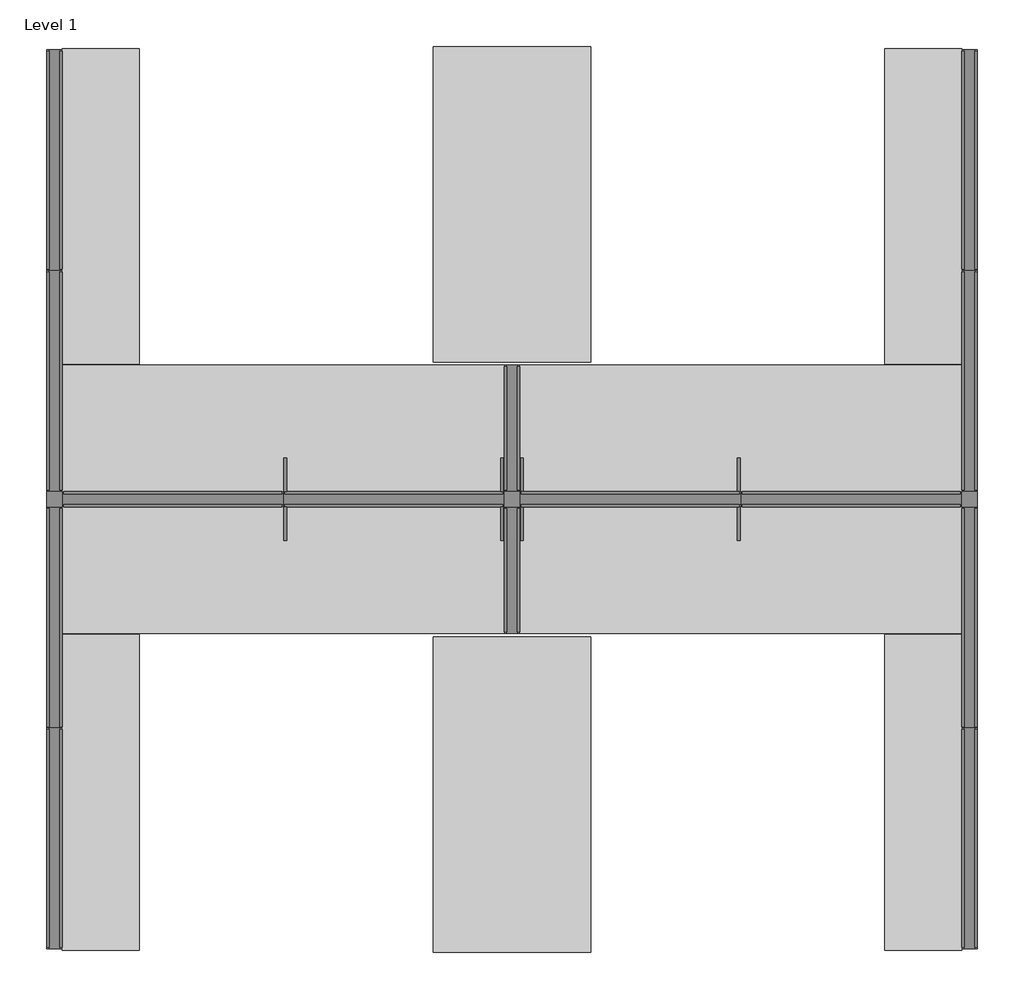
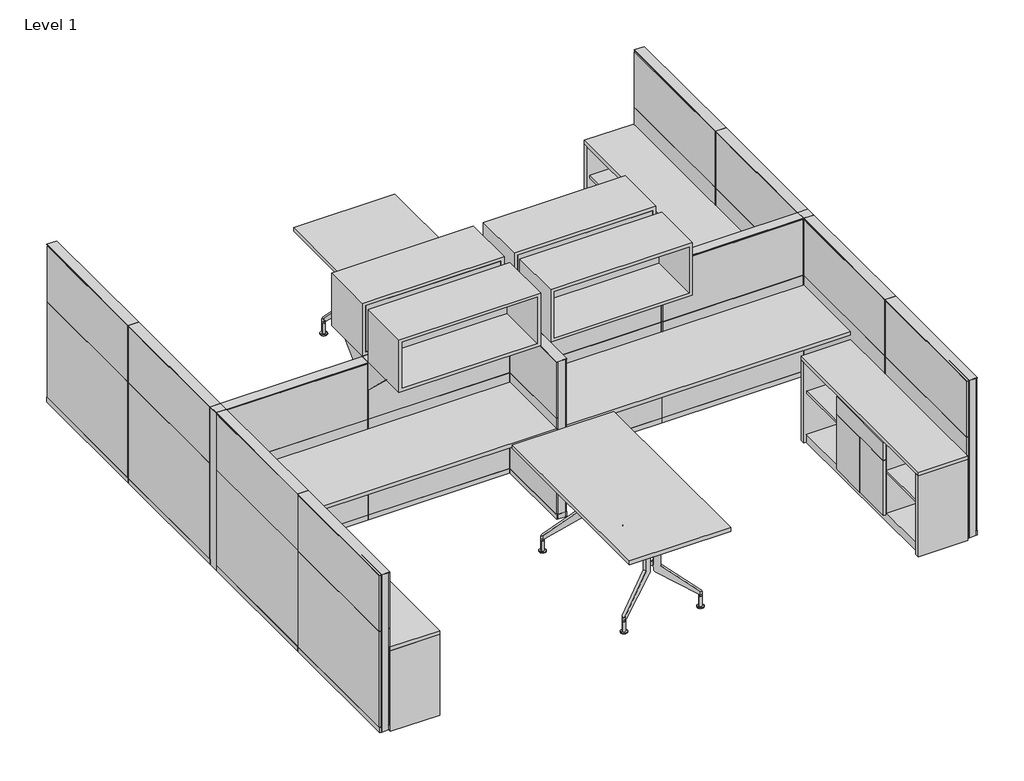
# One storey, incomplete: 32 furniture elements.
"""IFC4 building model written with IfcOpenShell, lengths in millimetres."""

from ifc_helpers import new_model, si_unit, origin, place, context, project, spatial, transform, mapped, element, save
from components import furniture_60w_drawer_and_doors_5b40b9ff, furniture_60w_drawer_and_doors_feebf411, haworth_compose_overhead_without_doors_42w_16h_a72715c7, haworth_compose_overhead_without_doors_42w_16h_cf1af154, haworth_compose_panel_post_50h_90_degree_post_92b81c20, haworth_compose_panel_post_50h_90_degree_post_67cade53, haworth_compose_panel_solid_50h_24w_0ef88113, haworth_compose_panel_solid_50h_24w_9f980fa6, haworth_compose_panel_solid_50h_42w_a5b8c81b, haworth_compose_panel_solid_50h_42w_08396937, haworth_compose_panel_solid_50h_42w_92178e70, haworth_compose_panel_solid_50h_42w_4d63d4d8, haworth_compose_worksurface_rectangular_84w_24d_6c0314e7, haworth_compose_worksurface_rectangular_84w_24d_f69e82ab, haworth_planes_collaborativetable_rectangular_60w_30d_d738dc93, haworth_planes_collaborativetable_rectangular_60w_30d_efc839f5

model = new_model("IFC4")

# Units and contexts
model_context = context("Model", 3, world=origin())
ifc_project = project(units=[si_unit("LENGTHUNIT", "METRE", prefix="MILLI")], contexts=[model_context])

# Site, building, storey
site = spatial("IfcSite", under=ifc_project)
building = spatial("IfcBuilding", under=site)
storey = spatial("IfcBuildingStorey", under=building, Name="Level 1", Elevation=0.0)

# Furniture
placement = place(None, origin())
furniture_60w_drawer_and_doors_shape = furniture_60w_drawer_and_doors_5b40b9ff(model_context)
element("IfcFurniture", 1, ObjectType="Haworth_ASeries_Credenza_2High : 60w - Drawer and Doors", at=placement, inside=storey, context=model_context, shape_type="MappedRepresentation", body=[
    mapped(furniture_60w_drawer_and_doors_shape, transform((-2550.7106626, 1640.6293691, 0.0), x_axis=(-1.7484555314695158e-07, 0.999999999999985, 0.0), y_axis=(-0.999999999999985, -1.7484555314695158e-07, 0.0), z_axis=(0.0, 0.0, 1.0))),
])
element("IfcFurniture", 2, ObjectType="Haworth_ASeries_Credenza_2High : 60w - Drawer and Doors", at=placement, inside=storey, context=model_context, shape_type="MappedRepresentation", body=[
    mapped(furniture_60w_drawer_and_doors_shape, transform((1792.6890093, 3593.2573073, 0.0), x_axis=(1.7484555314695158e-07, -0.999999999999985, 0.0), y_axis=(0.999999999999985, 1.7484555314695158e-07, 0.0), z_axis=(0.0, 0.0, 1.0))),
])
furniture_60w_drawer_and_doors_2_shape = furniture_60w_drawer_and_doors_feebf411(model_context)
element("IfcFurniture", 3, ObjectType="Haworth_ASeries_Credenza_2High : 60w - Drawer and Doors", at=placement, inside=storey, context=model_context, shape_type="MappedRepresentation", body=[
    mapped(furniture_60w_drawer_and_doors_2_shape, transform((-2550.7106626, 3593.2573073, 0.0), x_axis=(-1.7484555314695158e-07, -0.999999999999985, 0.0), y_axis=(0.999999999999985, -1.7484555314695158e-07, 0.0), z_axis=(0.0, 0.0, 1.0))),
])
element("IfcFurniture", 4, ObjectType="Haworth_ASeries_Credenza_2High : 60w - Drawer and Doors", at=placement, inside=storey, context=model_context, shape_type="MappedRepresentation", body=[
    mapped(furniture_60w_drawer_and_doors_2_shape, transform((1792.6890093, 1640.6293691, 0.0), x_axis=(1.7484555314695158e-07, 0.999999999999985, 0.0), y_axis=(-0.999999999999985, 1.7484555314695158e-07, 0.0), z_axis=(0.0, 0.0, 1.0))),
])
haworth_compose_overhead_without_doors_42w_16h_shape = haworth_compose_overhead_without_doors_42w_16h_a72715c7(model_context)
element("IfcFurniture", 5, ObjectType="Haworth_Compose_Overhead : Without Doors 42w 16h", at=placement, inside=storey, context=model_context, shape_type="MappedRepresentation", body=[
    mapped(haworth_compose_overhead_without_doors_42w_16h_shape, transform((-1115.6108267, 2578.8433382, 0.0), x_axis=(1.0, 0.0, 0.0), y_axis=(0.0, 1.0, 0.0), z_axis=(0.0, 0.0, 1.0))),
])
element("IfcFurniture", 6, ObjectType="Haworth_Compose_Overhead : Without Doors 42w 16h", at=placement, inside=storey, context=model_context, shape_type="MappedRepresentation", body=[
    mapped(haworth_compose_overhead_without_doors_42w_16h_shape, transform((357.5891733, 2655.0433382, 0.0), x_axis=(-1.0, 0.0, 0.0), y_axis=(0.0, -1.0, 0.0), z_axis=(0.0, 0.0, 1.0))),
])
haworth_compose_overhead_without_doors_42w_16h_2_shape = haworth_compose_overhead_without_doors_42w_16h_cf1af154(model_context)
element("IfcFurniture", 7, ObjectType="Haworth_Compose_Overhead : Without Doors 42w 16h", at=placement, inside=storey, context=model_context, shape_type="MappedRepresentation", body=[
    mapped(haworth_compose_overhead_without_doors_42w_16h_2_shape, transform((-1115.6108267, 2655.0433382, 0.0), x_axis=(1.0, 0.0, 0.0), y_axis=(0.0, 1.0, 0.0), z_axis=(0.0, 0.0, 1.0))),
])
element("IfcFurniture", 8, ObjectType="Haworth_Compose_Overhead : Without Doors 42w 16h", at=placement, inside=storey, context=model_context, shape_type="MappedRepresentation", body=[
    mapped(haworth_compose_overhead_without_doors_42w_16h_2_shape, transform((357.5891733, 2578.8433382, 0.0), x_axis=(-1.0, 0.0, 0.0), y_axis=(0.0, -1.0, 0.0), z_axis=(0.0, 0.0, 1.0))),
])
haworth_compose_panel_post_50h_90_degree_post_shape = haworth_compose_panel_post_50h_90_degree_post_92b81c20(model_context)
element("IfcFurniture", 9, ObjectType="Haworth_Compose_Panel_Post : 50h 90 Degree Post", at=placement, inside=storey, context=model_context, shape_type="MappedRepresentation", body=[
    mapped(haworth_compose_panel_post_50h_90_degree_post_shape, transform((-2626.9108267, 2616.9433382, 0.0), x_axis=(1.0, 0.0, 0.0), y_axis=(0.0, 1.0, 0.0), z_axis=(0.0, 0.0, 1.0))),
])
element("IfcFurniture", 10, ObjectType="Haworth_Compose_Panel_Post : 50h 90 Degree Post", at=placement, inside=storey, context=model_context, shape_type="MappedRepresentation", body=[
    mapped(haworth_compose_panel_post_50h_90_degree_post_shape, transform((-417.1108267, 2616.9433382, 0.0), x_axis=(1.0, 0.0, 0.0), y_axis=(0.0, 1.0, 0.0), z_axis=(0.0, 0.0, 1.0))),
])
element("IfcFurniture", 11, ObjectType="Haworth_Compose_Panel_Post : 50h 90 Degree Post", at=placement, inside=storey, context=model_context, shape_type="MappedRepresentation", body=[
    mapped(haworth_compose_panel_post_50h_90_degree_post_shape, transform((1792.6891742, 2616.9417888, 0.0), x_axis=(1.0, 0.0, 0.0), y_axis=(0.0, 1.0, 0.0), z_axis=(0.0, 0.0, 1.0))),
])
haworth_compose_panel_post_50h_90_degree_post_2_shape = haworth_compose_panel_post_50h_90_degree_post_67cade53(model_context)
element("IfcFurniture", 12, ObjectType="Haworth_Compose_Panel_Post : 50h 90 Degree Post", at=placement, inside=storey, context=model_context, shape_type="MappedRepresentation", body=[
    mapped(haworth_compose_panel_post_50h_90_degree_post_2_shape, transform((1868.8891733, 2616.9433382, 0.0), x_axis=(-1.0, 0.0, 0.0), y_axis=(0.0, -1.0, 0.0), z_axis=(0.0, 0.0, 1.0))),
])
haworth_compose_panel_solid_50h_24w_shape = haworth_compose_panel_solid_50h_24w_0ef88113(model_context)
element("IfcFurniture", 13, ObjectType="Haworth_Compose_Panel_Solid : 50h 24w", at=placement, inside=storey, context=model_context, shape_type="MappedRepresentation", body=[
    mapped(haworth_compose_panel_solid_50h_24w_shape, transform((-379.0108267, 2276.483625, 0.0), x_axis=(0.0, -1.0000000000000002, 0.0), y_axis=(1.0000000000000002, 0.0, 0.0), z_axis=(0.0, 0.0, 1.0))),
])
haworth_compose_panel_solid_50h_24w_2_shape = haworth_compose_panel_solid_50h_24w_9f980fa6(model_context)
element("IfcFurniture", 14, ObjectType="Haworth_Compose_Panel_Solid : 50h 24w", at=placement, inside=storey, context=model_context, shape_type="MappedRepresentation", body=[
    mapped(haworth_compose_panel_solid_50h_24w_2_shape, transform((-379.0108267, 2957.4030513, 0.0), x_axis=(0.0, 1.0000000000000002, 0.0), y_axis=(-1.0000000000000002, 0.0, 0.0), z_axis=(0.0, 0.0, 1.0))),
])
haworth_compose_panel_solid_50h_42w_shape = haworth_compose_panel_solid_50h_42w_a5b8c81b(model_context)
element("IfcFurniture", 15, ObjectType="Haworth_Compose_Panel_Solid : 50h 42w", at=placement, inside=storey, context=model_context, shape_type="MappedRepresentation", body=[
    mapped(haworth_compose_panel_solid_50h_42w_shape, transform((-2588.8107338, 2047.8836317, 0.0), x_axis=(1.7484556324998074e-07, -0.9999999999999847, 0.0), y_axis=(0.9999999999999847, 1.7484556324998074e-07, 0.0), z_axis=(0.0, 0.0, 1.0))),
])
element("IfcFurniture", 16, ObjectType="Haworth_Compose_Panel_Solid : 50h 42w", at=placement, inside=storey, context=model_context, shape_type="MappedRepresentation", body=[
    mapped(haworth_compose_panel_solid_50h_42w_shape, transform((-2588.8105473, 981.0836317, 0.0), x_axis=(1.7484555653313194e-07, -0.9999999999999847, 0.0), y_axis=(0.9999999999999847, 1.7484555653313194e-07, 0.0), z_axis=(0.0, 0.0, 1.0))),
])
element("IfcFurniture", 17, ObjectType="Haworth_Compose_Panel_Solid : 50h 42w", at=placement, inside=storey, context=model_context, shape_type="MappedRepresentation", body=[
    mapped(haworth_compose_panel_solid_50h_42w_shape, transform((1830.7890805, 3186.0030447, 0.0), x_axis=(-1.7484556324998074e-07, 0.9999999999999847, 0.0), y_axis=(-0.9999999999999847, -1.7484556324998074e-07, 0.0), z_axis=(0.0, 0.0, 1.0))),
])
element("IfcFurniture", 18, ObjectType="Haworth_Compose_Panel_Solid : 50h 42w", at=placement, inside=storey, context=model_context, shape_type="MappedRepresentation", body=[
    mapped(haworth_compose_panel_solid_50h_42w_shape, transform((1830.788894, 4252.8030447, 0.0), x_axis=(-1.7484555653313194e-07, 0.9999999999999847, 0.0), y_axis=(-0.9999999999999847, -1.7484555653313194e-07, 0.0), z_axis=(0.0, 0.0, 1.0))),
])
haworth_compose_panel_solid_50h_42w_2_shape = haworth_compose_panel_solid_50h_42w_08396937(model_context)
element("IfcFurniture", 19, ObjectType="Haworth_Compose_Panel_Solid : 50h 42w", at=placement, inside=storey, context=model_context, shape_type="MappedRepresentation", body=[
    mapped(haworth_compose_panel_solid_50h_42w_2_shape, transform((-2588.8107338, 3186.0030447, 0.0), x_axis=(1.7484556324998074e-07, 0.9999999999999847, 0.0), y_axis=(-0.9999999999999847, 1.7484556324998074e-07, 0.0), z_axis=(0.0, 0.0, 1.0))),
])
element("IfcFurniture", 20, ObjectType="Haworth_Compose_Panel_Solid : 50h 42w", at=placement, inside=storey, context=model_context, shape_type="MappedRepresentation", body=[
    mapped(haworth_compose_panel_solid_50h_42w_2_shape, transform((-2588.8105473, 4252.8030447, 0.0), x_axis=(1.7484555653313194e-07, 0.9999999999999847, 0.0), y_axis=(-0.9999999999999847, 1.7484555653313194e-07, 0.0), z_axis=(0.0, 0.0, 1.0))),
])
element("IfcFurniture", 21, ObjectType="Haworth_Compose_Panel_Solid : 50h 42w", at=placement, inside=storey, context=model_context, shape_type="MappedRepresentation", body=[
    mapped(haworth_compose_panel_solid_50h_42w_2_shape, transform((1830.7890805, 2047.8836317, 0.0), x_axis=(-1.7484556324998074e-07, -0.9999999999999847, 0.0), y_axis=(0.9999999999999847, -1.7484556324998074e-07, 0.0), z_axis=(0.0, 0.0, 1.0))),
])
element("IfcFurniture", 22, ObjectType="Haworth_Compose_Panel_Solid : 50h 42w", at=placement, inside=storey, context=model_context, shape_type="MappedRepresentation", body=[
    mapped(haworth_compose_panel_solid_50h_42w_2_shape, transform((1830.788894, 981.0836317, 0.0), x_axis=(-1.7484555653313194e-07, -0.9999999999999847, 0.0), y_axis=(0.9999999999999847, -1.7484555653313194e-07, 0.0), z_axis=(0.0, 0.0, 1.0))),
])
haworth_compose_panel_solid_50h_42w_3_shape = haworth_compose_panel_solid_50h_42w_92178e70(model_context)
element("IfcFurniture", 23, ObjectType="Haworth_Compose_Panel_Solid : 50h 42w", at=placement, inside=storey, context=model_context, shape_type="MappedRepresentation", body=[
    mapped(haworth_compose_panel_solid_50h_42w_3_shape, transform((-2019.7511168, 2616.9433382, 0.0), x_axis=(1.0, 0.0, 0.0), y_axis=(0.0, 1.0, 0.0), z_axis=(0.0, 0.0, 1.0))),
])
element("IfcFurniture", 24, ObjectType="Haworth_Compose_Panel_Solid : 50h 42w", at=placement, inside=storey, context=model_context, shape_type="MappedRepresentation", body=[
    mapped(haworth_compose_panel_solid_50h_42w_3_shape, transform((-952.9511168, 2616.9433382, 0.0), x_axis=(1.0, 0.0, 0.0), y_axis=(0.0, 1.0, 0.0), z_axis=(0.0, 0.0, 1.0))),
])
haworth_compose_panel_solid_50h_42w_4_shape = haworth_compose_panel_solid_50h_42w_4d63d4d8(model_context)
element("IfcFurniture", 25, ObjectType="Haworth_Compose_Panel_Solid : 50h 42w", at=placement, inside=storey, context=model_context, shape_type="MappedRepresentation", body=[
    mapped(haworth_compose_panel_solid_50h_42w_4_shape, transform((1261.7294635, 2616.9433382, 0.0), x_axis=(-1.0, 0.0, 0.0), y_axis=(0.0, -1.0, 0.0), z_axis=(0.0, 0.0, 1.0))),
])
element("IfcFurniture", 26, ObjectType="Haworth_Compose_Panel_Solid : 50h 42w", at=placement, inside=storey, context=model_context, shape_type="MappedRepresentation", body=[
    mapped(haworth_compose_panel_solid_50h_42w_4_shape, transform((194.9294635, 2616.9433382, 0.0), x_axis=(-1.0, 0.0, 0.0), y_axis=(0.0, -1.0, 0.0), z_axis=(0.0, 0.0, 1.0))),
])
haworth_compose_worksurface_rectangular_84w_24d_shape = haworth_compose_worksurface_rectangular_84w_24d_6c0314e7(model_context)
element("IfcFurniture", 27, ObjectType="Haworth_Compose_Worksurface_Rectangular : 84w 24d", at=placement, inside=storey, context=model_context, shape_type="MappedRepresentation", body=[
    mapped(haworth_compose_worksurface_rectangular_84w_24d_shape, transform((-1483.9109006, 2274.0431383, 0.0), x_axis=(0.9999999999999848, 1.7484556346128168e-07, 0.0), y_axis=(-1.7484556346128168e-07, 0.9999999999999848, 0.0), z_axis=(0.0, 0.0, 1.0))),
])
element("IfcFurniture", 28, ObjectType="Haworth_Compose_Worksurface_Rectangular : 84w 24d", at=placement, inside=storey, context=model_context, shape_type="MappedRepresentation", body=[
    mapped(haworth_compose_worksurface_rectangular_84w_24d_shape, transform((725.8892473, 2959.843538, 0.0), x_axis=(-0.9999999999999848, -1.7484556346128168e-07, 0.0), y_axis=(1.7484556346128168e-07, -0.9999999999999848, 0.0), z_axis=(0.0, 0.0, 1.0))),
])
haworth_compose_worksurface_rectangular_84w_24d_2_shape = haworth_compose_worksurface_rectangular_84w_24d_f69e82ab(model_context)
element("IfcFurniture", 29, ObjectType="Haworth_Compose_Worksurface_Rectangular : 84w 24d", at=placement, inside=storey, context=model_context, shape_type="MappedRepresentation", body=[
    mapped(haworth_compose_worksurface_rectangular_84w_24d_2_shape, transform((-1483.9109006, 2959.843538, 0.0), x_axis=(0.9999999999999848, -1.7484556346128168e-07, 0.0), y_axis=(1.7484556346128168e-07, 0.9999999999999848, 0.0), z_axis=(0.0, 0.0, 1.0))),
])
element("IfcFurniture", 30, ObjectType="Haworth_Compose_Worksurface_Rectangular : 84w 24d", at=placement, inside=storey, context=model_context, shape_type="MappedRepresentation", body=[
    mapped(haworth_compose_worksurface_rectangular_84w_24d_2_shape, transform((725.8892473, 2274.0431383, 0.0), x_axis=(-0.9999999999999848, 1.7484556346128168e-07, 0.0), y_axis=(-1.7484556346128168e-07, -0.9999999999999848, 0.0), z_axis=(0.0, 0.0, 1.0))),
])
haworth_planes_collaborativetable_rectangular_60w_30d_shape = haworth_planes_collaborativetable_rectangular_60w_30d_d738dc93(model_context)
element("IfcFurniture", 31, ObjectType="Haworth_Planes_CollaborativeTable_Rectangular : 60w 30d", at=placement, inside=storey, context=model_context, shape_type="MappedRepresentation", body=[
    mapped(haworth_planes_collaborativetable_rectangular_60w_30d_shape, transform((-378.6061911, 1191.1388994, 0.0), x_axis=(-1.1924880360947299e-08, 0.9999999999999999, 0.0), y_axis=(-0.9999999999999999, -1.1924880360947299e-08, 0.0), z_axis=(0.0, 0.0, 1.0))),
])
haworth_planes_collaborativetable_rectangular_60w_30d_2_shape = haworth_planes_collaborativetable_rectangular_60w_30d_efc839f5(model_context)
element("IfcFurniture", 32, ObjectType="Haworth_Planes_CollaborativeTable_Rectangular : 60w 30d", at=placement, inside=storey, context=model_context, shape_type="MappedRepresentation", body=[
    mapped(haworth_planes_collaborativetable_rectangular_60w_30d_2_shape, transform((-378.6061911, 4042.747777, 0.0), x_axis=(-1.1924880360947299e-08, -0.9999999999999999, 0.0), y_axis=(0.9999999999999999, -1.1924880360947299e-08, 0.0), z_axis=(0.0, 0.0, 1.0))),
])

save(model, "model.ifc")
